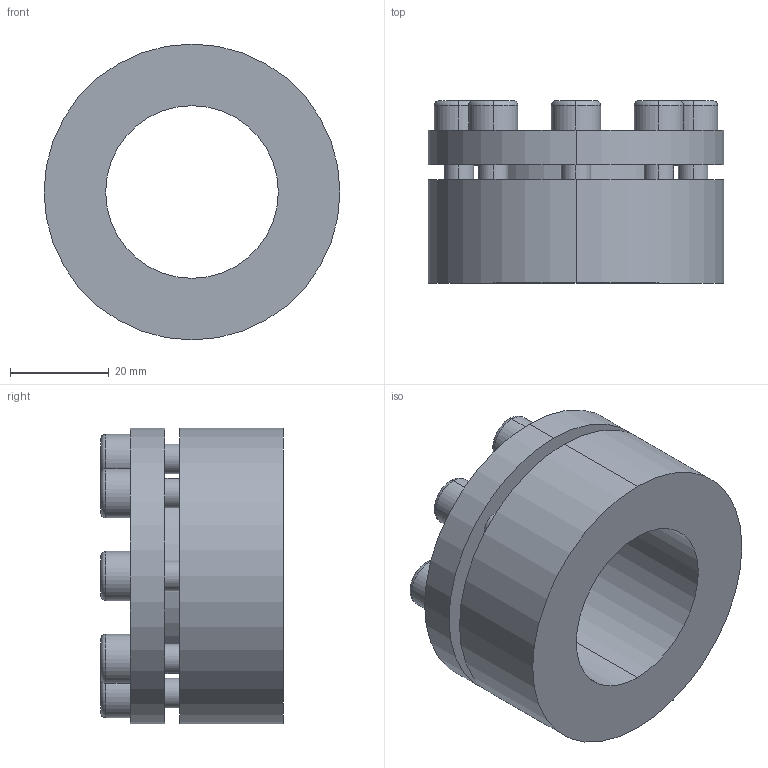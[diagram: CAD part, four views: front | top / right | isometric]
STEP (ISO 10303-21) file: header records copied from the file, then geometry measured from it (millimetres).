
FILE_DESCRIPTION (( 'STEP AP203' ), '1' );
FILE_NAME ('PL-H1 35-60.STEP', '2021-10-23T00:53:53', ( '' ), ( '' ), 'SwSTEP 2.0', 'SolidWorks 2018', '' );
FILE_SCHEMA (( 'CONFIG_CONTROL_DESIGN' ));
Length unit declared in the file: millimetre
Products named in the file (1): PL-H1 35-60
Bounding box: 60 x 37 x 60 mm (x, y, z)
Volume: 56622.3 mm3; surface area: 17974.2 mm2
Topology: 1 solids, 1 shells, 124 faces, 296 edges, 192 vertices
Faces by surface type: plane 68, cylinder 40, torus 16
Entity records: 3717 total; most frequent: DIRECTION 658, CARTESIAN_POINT 613, ORIENTED_EDGE 592, EDGE_CURVE 296, AXIS2_PLACEMENT_3D 237, VERTEX_POINT 192, LINE 184, VECTOR 184
